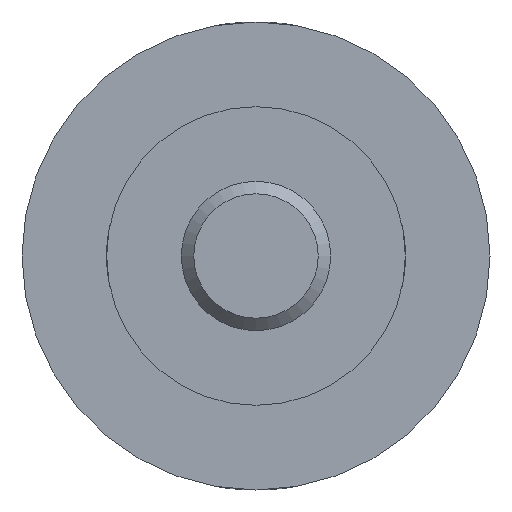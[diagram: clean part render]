
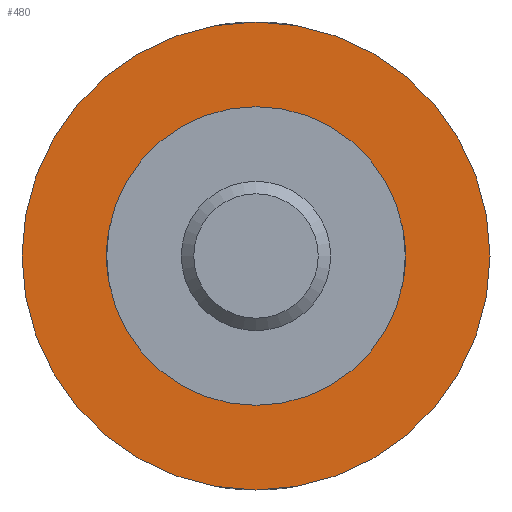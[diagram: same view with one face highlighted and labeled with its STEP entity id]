
A CAD part, front view. The second image highlights one B-rep face of the part: STEP entity #480.
In plain terms, the highlighted planar face has unit normal (0, -1, 0).
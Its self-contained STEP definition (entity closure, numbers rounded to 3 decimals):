
#22=FACE_BOUND('',#158,.T.);
#34=PLANE('',#542);
#124=FACE_OUTER_BOUND('',#157,.T.);
#157=EDGE_LOOP('',(#398));
#158=EDGE_LOOP('',(#399));
#179=CIRCLE('',#535,6.);
#183=CIRCLE('',#543,9.4);
#238=VERTEX_POINT('',#1074);
#242=VERTEX_POINT('',#1089);
#296=EDGE_CURVE('',#238,#238,#179,.T.);
#302=EDGE_CURVE('',#242,#242,#183,.T.);
#398=ORIENTED_EDGE('',*,*,#302,.T.);
#399=ORIENTED_EDGE('',*,*,#296,.F.);
#480=ADVANCED_FACE('',(#124,#22),#34,.T.);
#535=AXIS2_PLACEMENT_3D('',#1076,#629,#630);
#542=AXIS2_PLACEMENT_3D('',#1088,#645,#646);
#543=AXIS2_PLACEMENT_3D('',#1090,#647,#648);
#629=DIRECTION('center_axis',(0.,-1.,0.));
#630=DIRECTION('ref_axis',(1.,0.,0.));
#645=DIRECTION('center_axis',(0.,-1.,0.));
#646=DIRECTION('ref_axis',(0.,0.,-1.));
#647=DIRECTION('center_axis',(0.,-1.,0.));
#648=DIRECTION('ref_axis',(1.,0.,0.));
#1074=CARTESIAN_POINT('',(-6.,7.,0.));
#1076=CARTESIAN_POINT('Origin',(0.,7.,0.));
#1088=CARTESIAN_POINT('Origin',(7.6,7.,0.));
#1089=CARTESIAN_POINT('',(-9.4,7.,0.));
#1090=CARTESIAN_POINT('Origin',(0.,7.,0.));
